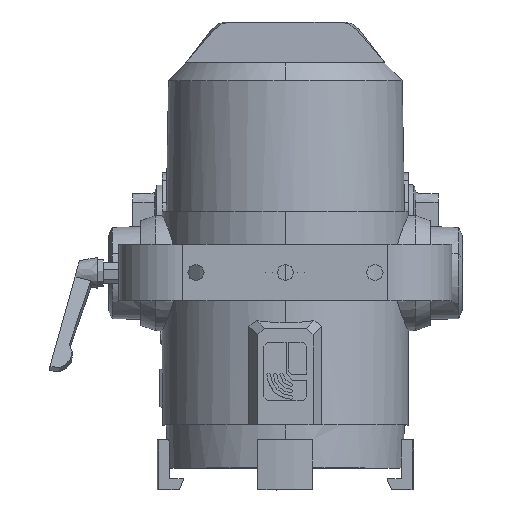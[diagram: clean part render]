
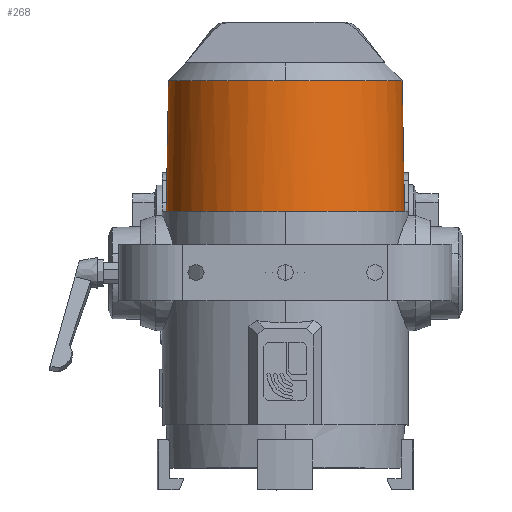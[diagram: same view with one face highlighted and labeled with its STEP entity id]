
A CAD part, top view. The second image highlights one B-rep face of the part: STEP entity #268.
In plain terms, the highlighted free-form (B-spline) face has degree [2, 1] with [5, 2] control points.
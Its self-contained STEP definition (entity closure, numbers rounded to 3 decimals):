
#268=ADVANCED_FACE('',(#720),#7211,.T.);
#720=FACE_OUTER_BOUND('',#1178,.T.);
#1178=EDGE_LOOP('',(#2571,#2572,#2573,#2574,#2575));
#2571=ORIENTED_EDGE('',*,*,#4879,.T.);
#2572=ORIENTED_EDGE('',*,*,#4316,.T.);
#2573=ORIENTED_EDGE('',*,*,#4310,.F.);
#2574=ORIENTED_EDGE('',*,*,#4311,.T.);
#2575=ORIENTED_EDGE('',*,*,#4532,.T.);
#4310=EDGE_CURVE('',#6584,#6574,#5831,.T.);
#4311=EDGE_CURVE('',#6584,#6468,#5245,.T.);
#4316=EDGE_CURVE('',#6575,#6574,#5248,.T.);
#4532=EDGE_CURVE('',#6468,#6936,#5315,.T.);
#4879=EDGE_CURVE('',#6936,#6575,#6183,.T.);
#5245=(
BOUNDED_CURVE()
B_SPLINE_CURVE(2,(#11383,#11384,#11385,#11386,#11387),.UNSPECIFIED.,.F.,
 .F.)
B_SPLINE_CURVE_WITH_KNOTS((3,2,3),(0.,78.674,157.347),
 .UNSPECIFIED.)
CURVE()
GEOMETRIC_REPRESENTATION_ITEM()
RATIONAL_B_SPLINE_CURVE((1.,0.924,1.,0.924,1.))
REPRESENTATION_ITEM('')
);
#5248=(
BOUNDED_CURVE()
B_SPLINE_CURVE(2,(#11402,#11403,#11404,#11405,#11406),.UNSPECIFIED.,.F.,
 .F.)
B_SPLINE_CURVE_WITH_KNOTS((3,2,3),(-321.404,-160.702,
0.),.UNSPECIFIED.)
CURVE()
GEOMETRIC_REPRESENTATION_ITEM()
RATIONAL_B_SPLINE_CURVE((1.,0.707,1.,0.707,1.))
REPRESENTATION_ITEM('')
);
#5315=(
BOUNDED_CURVE()
B_SPLINE_CURVE(2,(#12067,#12068,#12069),.UNSPECIFIED.,.F.,.F.)
B_SPLINE_CURVE_WITH_KNOTS((3,3),(157.347,314.694),
 .UNSPECIFIED.)
CURVE()
GEOMETRIC_REPRESENTATION_ITEM()
RATIONAL_B_SPLINE_CURVE((1.,0.707,1.))
REPRESENTATION_ITEM('')
);
#5831=B_SPLINE_CURVE_WITH_KNOTS('',1,(#11381,#11382),.UNSPECIFIED.,.F.,
 .F.,(2,2),(5227.038,5328.883),.UNSPECIFIED.);
#6183=B_SPLINE_CURVE_WITH_KNOTS('',1,(#13409,#13410),.UNSPECIFIED.,.F.,
 .F.,(2,2),(5227.038,5328.883),.UNSPECIFIED.);
#6468=VERTEX_POINT('',#9691);
#6574=VERTEX_POINT('',#9797);
#6575=VERTEX_POINT('',#9798);
#6584=VERTEX_POINT('',#9807);
#6936=VERTEX_POINT('',#10159);
#7211=(
BOUNDED_SURFACE()
B_SPLINE_SURFACE(2,1,((#9001,#9002),(#9003,#9004),(#9005,#9006),(#9007,
#9008),(#9009,#9010)),.UNSPECIFIED.,.F.,.F.,.F.)
B_SPLINE_SURFACE_WITH_KNOTS((3,2,3),(2,2),(0.,160.702,321.404),
(0.,5862.003),.UNSPECIFIED.)
GEOMETRIC_REPRESENTATION_ITEM()
RATIONAL_B_SPLINE_SURFACE(((1.,1.),(0.707,0.707),
(1.,1.),(0.707,0.707),(1.,1.)))
REPRESENTATION_ITEM('')
SURFACE()
);
#9001=CARTESIAN_POINT('',(1000.,5400.571,29.));
#9002=CARTESIAN_POINT('',(1102.306,-460.539,29.));
#9003=CARTESIAN_POINT('',(1000.,5400.571,29.));
#9004=CARTESIAN_POINT('',(1102.306,-460.539,131.306));
#9005=CARTESIAN_POINT('',(1000.,5400.571,29.));
#9006=CARTESIAN_POINT('',(1000.,-460.539,131.306));
#9007=CARTESIAN_POINT('',(1000.,5400.571,29.));
#9008=CARTESIAN_POINT('',(897.694,-460.539,131.306));
#9009=CARTESIAN_POINT('',(1000.,5400.571,29.));
#9010=CARTESIAN_POINT('',(897.694,-460.539,29.));
#9691=CARTESIAN_POINT('',(1000.,174.329,120.224));
#9797=CARTESIAN_POINT('',(1093.002,72.5,29.));
#9798=CARTESIAN_POINT('',(906.998,72.5,29.));
#9807=CARTESIAN_POINT('',(1091.224,174.329,29.));
#10159=CARTESIAN_POINT('',(908.776,174.329,29.));
#11381=CARTESIAN_POINT('',(1091.224,174.329,29.));
#11382=CARTESIAN_POINT('',(1093.002,72.5,29.));
#11383=CARTESIAN_POINT('',(1091.224,174.329,29.));
#11384=CARTESIAN_POINT('',(1091.224,174.329,66.786));
#11385=CARTESIAN_POINT('',(1064.505,174.329,93.505));
#11386=CARTESIAN_POINT('',(1037.786,174.329,120.224));
#11387=CARTESIAN_POINT('',(1000.,174.329,120.224));
#11402=CARTESIAN_POINT('',(906.998,72.5,29.));
#11403=CARTESIAN_POINT('',(906.998,72.5,122.002));
#11404=CARTESIAN_POINT('',(1000.,72.5,122.002));
#11405=CARTESIAN_POINT('',(1093.002,72.5,122.002));
#11406=CARTESIAN_POINT('',(1093.002,72.5,29.));
#12067=CARTESIAN_POINT('',(1000.,174.329,120.224));
#12068=CARTESIAN_POINT('',(908.776,174.329,120.224));
#12069=CARTESIAN_POINT('',(908.776,174.329,29.));
#13409=CARTESIAN_POINT('',(908.776,174.329,29.));
#13410=CARTESIAN_POINT('',(906.998,72.5,29.));
